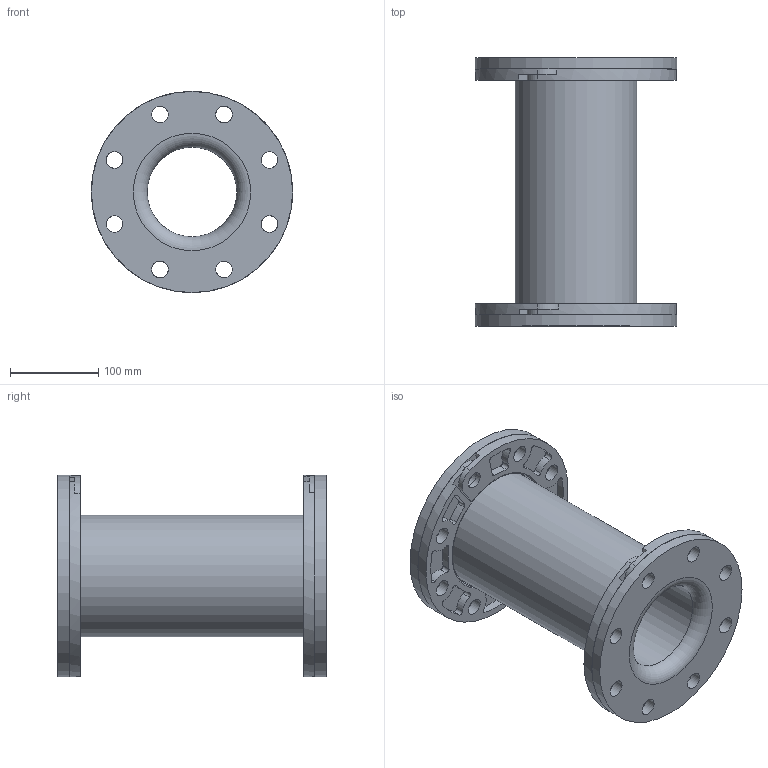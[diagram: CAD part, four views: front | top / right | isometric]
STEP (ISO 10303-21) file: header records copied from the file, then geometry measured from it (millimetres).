
FILE_DESCRIPTION(/* description */ (''),/* implementation_level */ '2;1');
FILE_NAME(/* name */ 'C:\001_Work\Designs\Mercer2014\MQInventor2014\RajR\150 Style\STP\STYLE 150 ASA150LB\150-4IDx12FF ASA50LB.stp',/* time_stamp */ '2016-05-20T18:44:30-04:00',/* author */ ('rramoutar'),/* organization */ ('Mason Industries Inc.'),/* preprocessor_version */ 'ST-DEVELOPER v15.6',/* originating_system */ 'Autodesk Inventor 2015',/* authorisation */ '');
FILE_SCHEMA (('CONFIG_CONTROL_DESIGN'));
Length unit declared in the file: inch
Products named in the file (1): 150-4IDx12FF
Bounding box: 228.6 x 304.8 x 228.6 mm (x, y, z)
Volume: 3079054.3 mm3; surface area: 512004.9 mm2
Topology: 3 solids, 3 shells, 258 faces, 700 edges, 466 vertices
Faces by surface type: cylinder 182, plane 64, torus 12
Full cylindrical faces by diameter (mm): 19.05 x36, 101.6 x1, 137.77 x1, 228.6 x4
Entity records: 8682 total; most frequent: DIRECTION 1564, CARTESIAN_POINT 1557, ORIENTED_EDGE 1300, AXIS2_PLACEMENT_3D 667, EDGE_CURVE 650, VERTEX_POINT 460, CIRCLE 408, EDGE_LOOP 390
